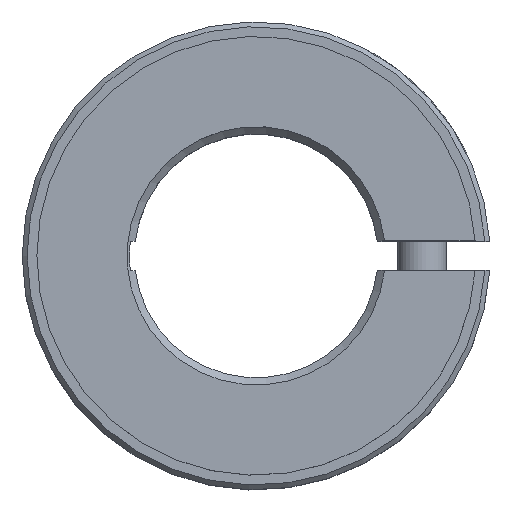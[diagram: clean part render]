
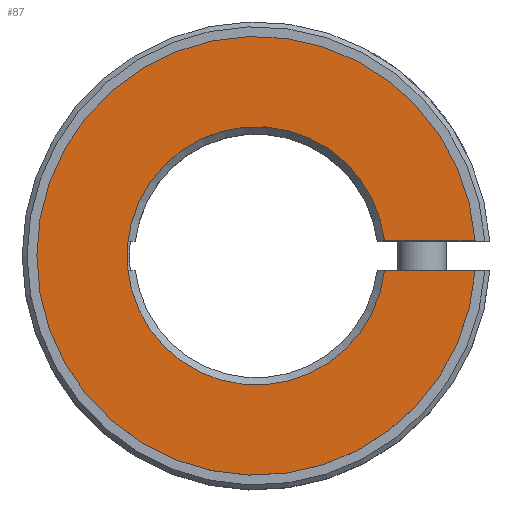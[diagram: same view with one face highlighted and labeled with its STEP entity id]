
A CAD part, top view. The second image highlights one B-rep face of the part: STEP entity #87.
In plain terms, the highlighted planar face has unit normal (0, 0, 1).
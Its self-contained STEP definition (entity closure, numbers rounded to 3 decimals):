
#87 = ADVANCED_FACE( '', ( #138 ), #139, .T. );
#138 = FACE_OUTER_BOUND( '', #221, .T. );
#139 = PLANE( '', #222 );
#221 = EDGE_LOOP( '', ( #379, #380, #381, #382 ) );
#222 = AXIS2_PLACEMENT_3D( '', #383, #384, #385 );
#379 = ORIENTED_EDGE( '', *, *, #599, .F. );
#380 = ORIENTED_EDGE( '', *, *, #587, .T. );
#381 = ORIENTED_EDGE( '', *, *, #600, .T. );
#382 = ORIENTED_EDGE( '', *, *, #592, .T. );
#383 = CARTESIAN_POINT( '', ( 0., 22.5, 10.5 ) );
#384 = DIRECTION( '', ( 0., 0., 1. ) );
#385 = DIRECTION( '', ( 1., 0., 0. ) );
#587 = EDGE_CURVE( '', #701, #699, #702, .T. );
#592 = EDGE_CURVE( '', #710, #708, #711, .T. );
#599 = EDGE_CURVE( '', #701, #708, #720, .T. );
#600 = EDGE_CURVE( '', #699, #710, #721, .T. );
#699 = VERTEX_POINT( '', #958 );
#701 = VERTEX_POINT( '', #961 );
#702 = LINE( '', #962, #963 );
#708 = VERTEX_POINT( '', #972 );
#710 = VERTEX_POINT( '', #975 );
#711 = LINE( '', #976, #977 );
#720 = CIRCLE( '', #991, 22.5 );
#721 = CIRCLE( '', #992, 13.25 );
#958 = CARTESIAN_POINT( '', ( 13.161, -1.53, 10.5 ) );
#961 = CARTESIAN_POINT( '', ( 22.448, -1.53, 10.5 ) );
#962 = CARTESIAN_POINT( '', ( 0., -1.53, 10.5 ) );
#963 = VECTOR( '', #1128, 1000. );
#972 = CARTESIAN_POINT( '', ( 22.448, 1.53, 10.5 ) );
#975 = CARTESIAN_POINT( '', ( 13.161, 1.53, 10.5 ) );
#976 = CARTESIAN_POINT( '', ( 0., 1.53, 10.5 ) );
#977 = VECTOR( '', #1133, 1000. );
#991 = AXIS2_PLACEMENT_3D( '', #1145, #1146, #1147 );
#992 = AXIS2_PLACEMENT_3D( '', #1148, #1149, #1150 );
#1128 = DIRECTION( '', ( -1., 0., 0. ) );
#1133 = DIRECTION( '', ( 1., 0., 0. ) );
#1145 = CARTESIAN_POINT( '', ( 0., 0., 10.5 ) );
#1146 = DIRECTION( '', ( 0., 0., -1. ) );
#1147 = DIRECTION( '', ( -1., 0., 0. ) );
#1148 = CARTESIAN_POINT( '', ( 0., 0., 10.5 ) );
#1149 = DIRECTION( '', ( 0., 0., -1. ) );
#1150 = DIRECTION( '', ( -1., 0., 0. ) );
